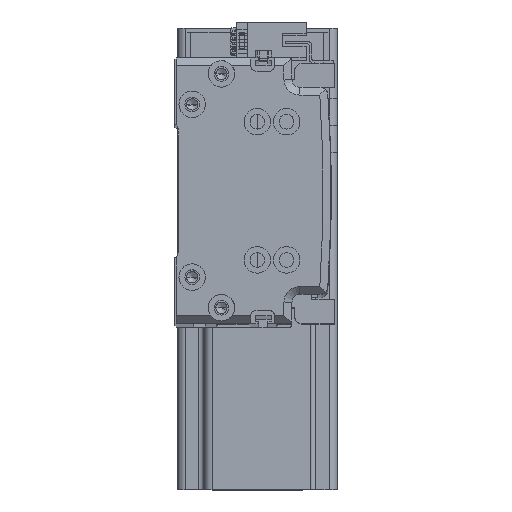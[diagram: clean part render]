
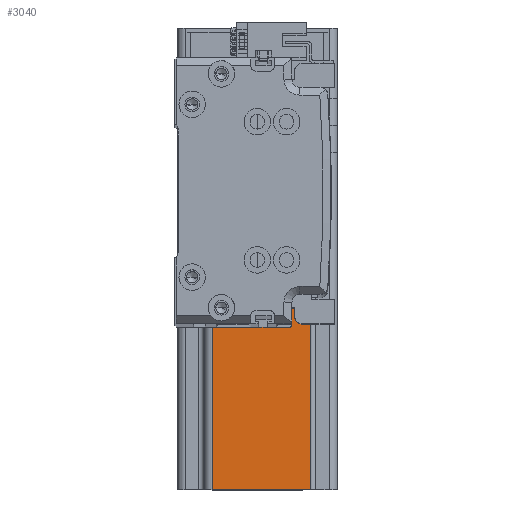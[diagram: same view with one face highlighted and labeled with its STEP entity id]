
A CAD part, top view. The second image highlights one B-rep face of the part: STEP entity #3040.
In plain terms, the highlighted planar face has unit normal (0, 0, 1) as drawn and (-1, 0, 0) by its records, which use the part's own axes.
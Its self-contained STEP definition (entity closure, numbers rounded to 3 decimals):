
#3040 = ADVANCED_FACE ( 'NONE', ( #18230 ), #30025, .F. ) ;
#3355 = ORIENTED_EDGE ( 'NONE', *, *, #16624, .F. ) ;
#3405 = CARTESIAN_POINT ( 'NONE',  ( -30., 27., 137. ) ) ;
#4954 = CARTESIAN_POINT ( 'NONE',  ( -30., -30., 0. ) ) ;
#6492 = VERTEX_POINT ( 'NONE', #8147 ) ;
#6814 = LINE ( 'NONE', #12227, #45335 ) ;
#7167 = CARTESIAN_POINT ( 'NONE',  ( -30., -17., 137. ) ) ;
#8147 = CARTESIAN_POINT ( 'NONE',  ( -30., 27., 10. ) ) ;
#8295 = EDGE_CURVE ( 'NONE', #21589, #36570, #40323, .T. ) ;
#9739 = EDGE_CURVE ( 'NONE', #14817, #14968, #12354, .T. ) ;
#11761 = ORIENTED_EDGE ( 'NONE', *, *, #16393, .T. ) ;
#12227 = CARTESIAN_POINT ( 'NONE',  ( -30., 20., 10. ) ) ;
#12354 = LINE ( 'NONE', #31677, #21565 ) ;
#12524 = VECTOR ( 'NONE', #30517, 1000. ) ;
#14817 = VERTEX_POINT ( 'NONE', #30587 ) ;
#14968 = VERTEX_POINT ( 'NONE', #31920 ) ;
#16148 = EDGE_CURVE ( 'NONE', #18127, #20599, #46641, .T. ) ;
#16393 = EDGE_CURVE ( 'NONE', #18127, #14968, #41294, .T. ) ;
#16624 = EDGE_CURVE ( 'NONE', #48878, #14817, #6814, .T. ) ;
#16690 = EDGE_CURVE ( 'NONE', #48878, #6492, #45919, .T. ) ;
#16722 = DIRECTION ( 'NONE',  ( 0., -1., 0. ) ) ;
#16984 = EDGE_CURVE ( 'NONE', #6492, #21589, #33131, .T. ) ;
#16994 = EDGE_CURVE ( 'NONE', #36570, #20599, #22933, .T. ) ;
#18127 = VERTEX_POINT ( 'NONE', #35178 ) ;
#18205 = CARTESIAN_POINT ( 'NONE',  ( -30., -27., 10. ) ) ;
#18230 = FACE_OUTER_BOUND ( 'NONE', #31495, .T. ) ;
#20229 = DIRECTION ( 'NONE',  ( 0., 0., 1. ) ) ;
#20337 = ORIENTED_EDGE ( 'NONE', *, *, #16690, .T. ) ;
#20599 = VERTEX_POINT ( 'NONE', #18205 ) ;
#21565 = VECTOR ( 'NONE', #39305, 1000. ) ;
#21589 = VERTEX_POINT ( 'NONE', #32450 ) ;
#21712 = VECTOR ( 'NONE', #45632, 1000. ) ;
#22806 = CARTESIAN_POINT ( 'NONE',  ( -30., -27., 137. ) ) ;
#22933 = LINE ( 'NONE', #22806, #21712 ) ;
#24288 = ORIENTED_EDGE ( 'NONE', *, *, #16148, .F. ) ;
#24906 = CARTESIAN_POINT ( 'NONE',  ( -30., -27., 0. ) ) ;
#26674 = DIRECTION ( 'NONE',  ( 0., 0., -1. ) ) ;
#26775 = AXIS2_PLACEMENT_3D ( 'NONE', #26975, #26823, #26674 ) ;
#26823 = DIRECTION ( 'NONE',  ( 1., 0., 0. ) ) ;
#26975 = CARTESIAN_POINT ( 'NONE',  ( -30., -30., 137. ) ) ;
#27387 = ORIENTED_EDGE ( 'NONE', *, *, #8295, .T. ) ;
#28560 = DIRECTION ( 'NONE',  ( 0., 1., 0. ) ) ;
#30025 = PLANE ( 'NONE',  #26775 ) ;
#30517 = DIRECTION ( 'NONE',  ( 0., 0., -1. ) ) ;
#30587 = CARTESIAN_POINT ( 'NONE',  ( -30., 20., 137. ) ) ;
#31158 = VECTOR ( 'NONE', #38063, 1000. ) ;
#31495 = EDGE_LOOP ( 'NONE', ( #24288, #11761, #48257, #3355, #20337, #39542, #27387, #46488 ) ) ;
#31677 = CARTESIAN_POINT ( 'NONE',  ( -30., -30., 137. ) ) ;
#31920 = CARTESIAN_POINT ( 'NONE',  ( -30., -17., 137. ) ) ;
#32450 = CARTESIAN_POINT ( 'NONE',  ( -30., 27., 0. ) ) ;
#32643 = CARTESIAN_POINT ( 'NONE',  ( -30., -30., 10. ) ) ;
#33131 = LINE ( 'NONE', #3405, #12524 ) ;
#35178 = CARTESIAN_POINT ( 'NONE',  ( -30., -17., 10. ) ) ;
#35828 = VECTOR ( 'NONE', #28560, 1000. ) ;
#36544 = VECTOR ( 'NONE', #36792, 1000. ) ;
#36570 = VERTEX_POINT ( 'NONE', #24906 ) ;
#36792 = DIRECTION ( 'NONE',  ( 0., -1., 0. ) ) ;
#38063 = DIRECTION ( 'NONE',  ( 0., 0., 1. ) ) ;
#39305 = DIRECTION ( 'NONE',  ( 0., -1., 0. ) ) ;
#39542 = ORIENTED_EDGE ( 'NONE', *, *, #16984, .T. ) ;
#40323 = LINE ( 'NONE', #4954, #49198 ) ;
#41294 = LINE ( 'NONE', #7167, #31158 ) ;
#43668 = CARTESIAN_POINT ( 'NONE',  ( -30., 30., 10. ) ) ;
#45335 = VECTOR ( 'NONE', #20229, 1000. ) ;
#45632 = DIRECTION ( 'NONE',  ( 0., 0., 1. ) ) ;
#45919 = LINE ( 'NONE', #43668, #35828 ) ;
#46488 = ORIENTED_EDGE ( 'NONE', *, *, #16994, .T. ) ;
#46641 = LINE ( 'NONE', #32643, #36544 ) ;
#48257 = ORIENTED_EDGE ( 'NONE', *, *, #9739, .F. ) ;
#48878 = VERTEX_POINT ( 'NONE', #49362 ) ;
#49198 = VECTOR ( 'NONE', #16722, 1000. ) ;
#49362 = CARTESIAN_POINT ( 'NONE',  ( -30., 20., 10. ) ) ;
